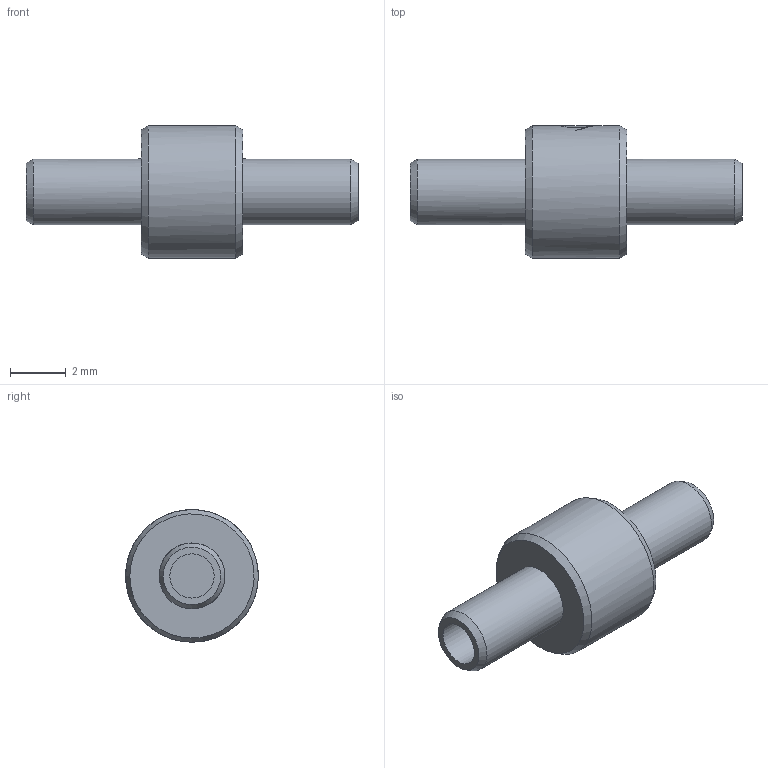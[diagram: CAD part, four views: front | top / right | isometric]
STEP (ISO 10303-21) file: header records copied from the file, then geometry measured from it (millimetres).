
FILE_DESCRIPTION(/* description */ ('SolidWorks IGES file using NURBS representation for surfaces '),/* implementation_level */ '2;1');
FILE_NAME(/* name */ 'K:\Normteile INVENTOR\Air-Logic\Check Valves\F-2804-400.IGS.ipt.stp',/* time_stamp */ '2020-05-27T10:35:56+02:00',/* author */ ('amarsh'),/* organization */ (''),/* preprocessor_version */ 'ST-DEVELOPER v18',/* originating_system */ 'Autodesk Inventor 2020',/* authorisation */ '');
FILE_SCHEMA (('AUTOMOTIVE_DESIGN { 1 0 10303 214 3 1 1 }'));
Length unit declared in the file: millimetre
Products named in the file (1): F-2804-400.IGS
Bounding box: 11.89 x 4.75 x 4.75 mm (x, y, z)
Surface area: 185.8 mm2 (no closed solid volume)
Topology: 0 solids, 2 shells, 35 faces, 96 edges, 70 vertices
Faces by surface type: bspline 13, plane 10, cylinder 8, cone 4
Full cylindrical faces by diameter (mm): 1.588 x2, 2.36 x2, 4.75 x1
Entity records: 1881 total; most frequent: CARTESIAN_POINT 988, ORIENTED_EDGE 188, DIRECTION 144, EDGE_CURVE 96, VERTEX_POINT 70, AXIS2_PLACEMENT_3D 55, EDGE_LOOP 42, FACE_OUTER_BOUND 35
